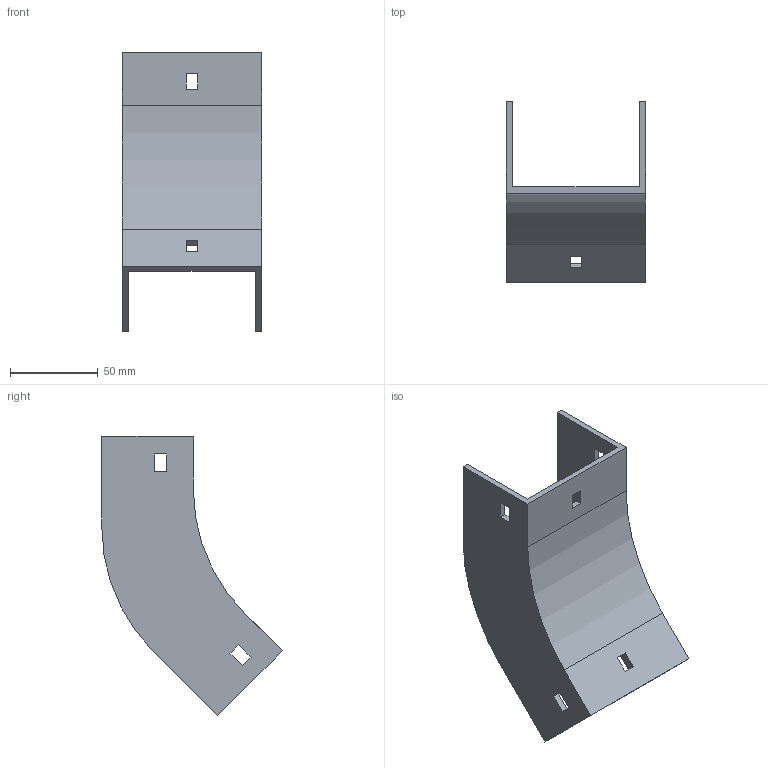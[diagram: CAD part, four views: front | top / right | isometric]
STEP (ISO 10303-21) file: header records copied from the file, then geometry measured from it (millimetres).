
FILE_DESCRIPTION (( 'STEP AP214' ), '1' );
FILE_NAME ('34F1B075.step', '2025-02-21T12:50:44', ( '' ), ( '' ), 'SwSTEP 2.0', 'SolidWorks 2023', '' );
FILE_SCHEMA (( 'AUTOMOTIVE_DESIGN' ));
Length unit declared in the file: millimetre
Products named in the file (1): 34F1B075
Bounding box: 79 x 102.5 x 158.69 mm (x, y, z)
Volume: 93703.9 mm3; surface area: 56731.8 mm2
Topology: 1 solids, 1 shells, 42 faces, 120 edges, 80 vertices
Faces by surface type: plane 38, cylinder 4
Entity records: 1399 total; most frequent: CARTESIAN_POINT 243, ORIENTED_EDGE 240, DIRECTION 214, EDGE_CURVE 120, LINE 112, VECTOR 112, VERTEX_POINT 80, EDGE_LOOP 54
